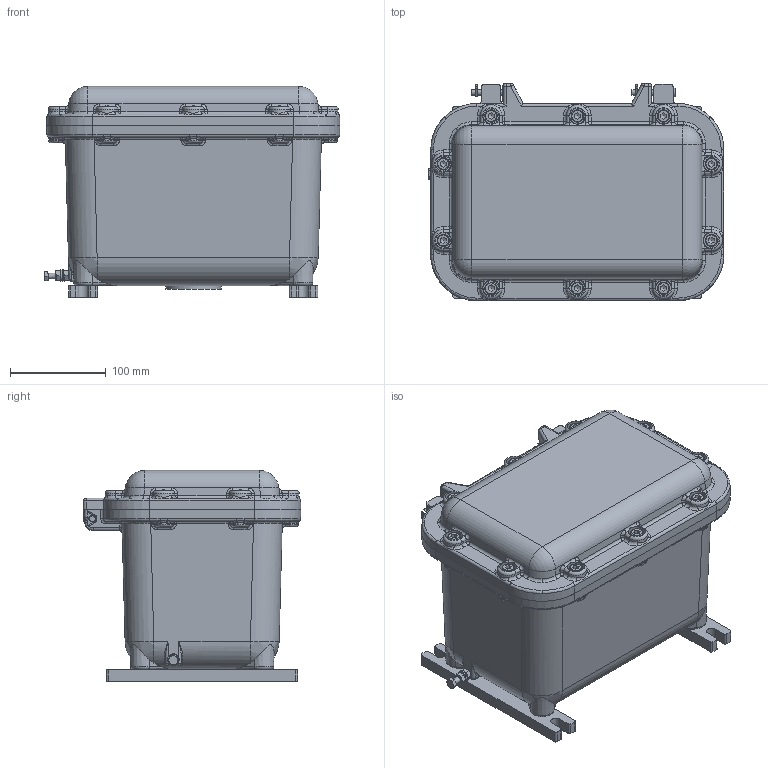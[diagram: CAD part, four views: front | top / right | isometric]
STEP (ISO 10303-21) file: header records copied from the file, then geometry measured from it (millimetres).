
FILE_DESCRIPTION(('STEP AP214'), '1');
FILE_NAME('ﾑﾌﾄ 346400 337 000 _ ﾊﾂﾌﾊ 302021 Exd (ﾁ2, ﾂ03)', '', ('UNSPECIFIED'), ('UNSPECIFIED'), 'ASCON STEP Converter 1.3', 'ASCON Math Kernel', '');
FILE_SCHEMA(('AUTOMOTIVE_DESIGN { 1 0 10303 214 3 1 1}'));
Length unit declared in the file: millimetre
Products named in the file (24): ﾑﾌﾄ 346400 337 000 ﾑﾁ; ﾑﾌﾄ 346400 337 001; ﾑﾌﾄ 346400 337 002; ﾑﾌﾄ 346400 337 003; ﾑﾌﾄ 346400 337 004
Assembly tree (62 placements, depth 2):
  ﾑﾌﾄ 346400 337 000 ﾑﾁ
    ﾑﾌﾄ 346400 337 001
    ﾑﾌﾄ 346400 337 002
    (unnamed)  x4
    (unnamed)  x2
    (unnamed)  x2
    (unnamed)  x2
    (unnamed)
    (unnamed)  x2
    ﾑﾌﾄ 346400 337 003  x2
    (unnamed)
    (unnamed)
    (unnamed)
    (unnamed)
    ﾑﾌﾄ 346400 337 004  x2
    (unnamed)  x10
    (unnamed)  x10
    (unnamed)  x10
    (unnamed)
    (unnamed)  x4
    (unnamed)
    (unnamed)
    (unnamed)
    (unnamed)
Bounding box: 308.83 x 227.17 x 220.5 mm (x, y, z)
Volume: 3724945.3 mm3; surface area: 657305 mm2
Topology: 62 solids, 62 shells, 2139 faces, 5281 edges, 3321 vertices
Faces by surface type: cylinder 842, plane 778, bspline 217, torus 115, cone 105, extrusion 54, sphere 28
Full cylindrical faces by diameter (mm): 3 x2, 3.3 x4, 4.134 x2, 4.917 x3, 5 x6, 5.5 x8, 6 x3, 6.4 x4, 6.6 x2, 6.647 x14, 7 x4, 8 x14, 9 x26, 9.2 x4, 10 x4, 11 x4, 12 x2, 13 x10, 14.5 x4, 16 x10, 17.5 x10, 18 x4, 58 x1
Entity records: 112293 total; most frequent: CARTESIAN_POINT 54901, ORIENTED_EDGE 8616, DIRECTION 8229, EDGE_CURVE 4308, AXIS2_PLACEMENT_3D 3090, VERTEX_POINT 2754, VECTOR 2049, EDGE_LOOP 2029
